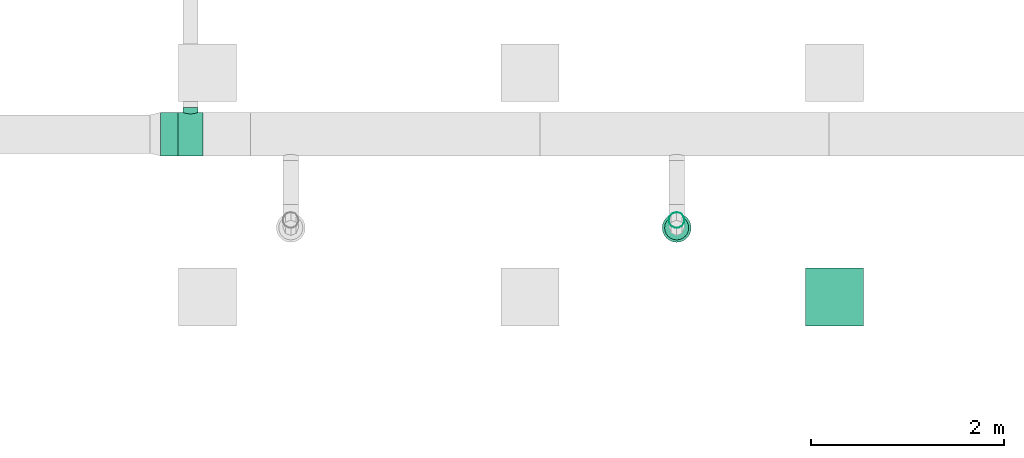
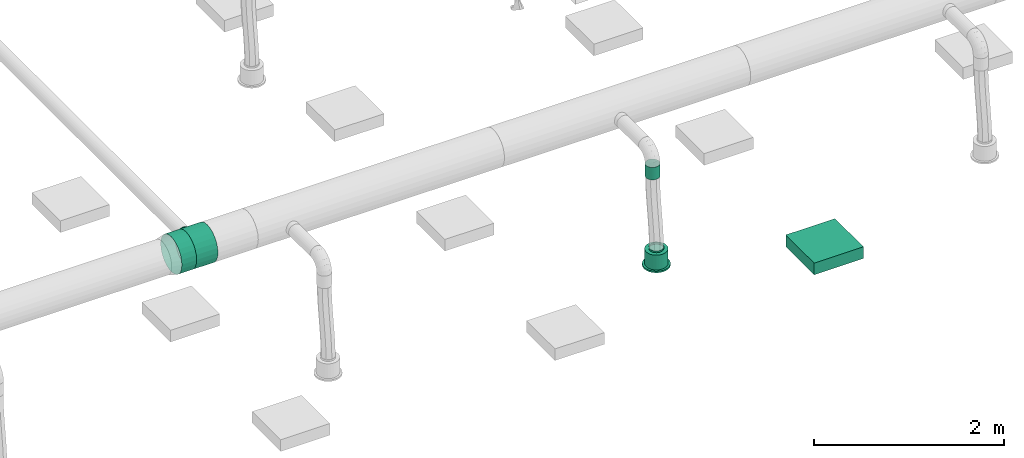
# One storey, part 67 of 374: 2 flow segments, 1 distribution element, 1 flow fitting, 1 flow terminal.
"""IFC2X3 building model written with IfcOpenShell, lengths in metres."""

from ifc_helpers import new_model, si_unit, direction, frame, frame_2d, origin, place, context, subcontext, project, spatial, rectangle, extrude, open_shell, surface_model, source, transform, mapped, element, save


model = new_model("IFC2X3")

# Units and contexts
model_context = context("Model", 3, precision=1e-05, world=origin(), true_north=direction((-0.4480736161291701, 0.8939966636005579)))
body_context = subcontext(model_context, "Body", "Model", "MODEL_VIEW")
ifc_project = project(units=[si_unit("LENGTHUNIT", "METRE"), si_unit("AREAUNIT", "SQUARE_METRE"), si_unit("VOLUMEUNIT", "CUBIC_METRE"), si_unit("PLANEANGLEUNIT", "RADIAN"), si_unit("THERMODYNAMICTEMPERATUREUNIT", "KELVIN"), si_unit("MASSUNIT", "GRAM", prefix="KILO"), si_unit("TIMEUNIT", "SECOND")], contexts=[model_context])

# Site, building, storey
site_placement = place(None, origin())
site = spatial("IfcSite", under=ifc_project, at=site_placement, Name="Site 1", CompositionType="ELEMENT")
building_placement = place(site_placement, origin())
building = spatial("IfcBuilding", under=site, at=building_placement, Name="Undefined", CompositionType="ELEMENT")
storey_placement = place(building_placement, origin())
storey = spatial("IfcBuildingStorey", under=building, at=storey_placement, Name="Rez de chauss\x8ee", CompositionType="ELEMENT", Elevation=0.0)

# Flow terminal
shared_shape_1 = source(origin(), body_context, "Body", "SurfaceModel", [
    surface_model("IfcFaceBasedSurfaceModel", [(0.0, 0.0, 0.0), (0.03915785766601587, 0.0, 0.0), (0.03915785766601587, 0.020000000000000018, 0.0), (3.552713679e-15, 0.020000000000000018, 0.0), (0.07698144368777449, 0.0, -0.010134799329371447), (0.07698144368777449, 0.020000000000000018, -0.010134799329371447), (0.11089314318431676, 0.0, -0.02971372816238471), (0.11089314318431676, 0.020000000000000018, -0.02971372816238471), (0.13858192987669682, 0.0, -0.05740251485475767), (0.13858192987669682, 0.020000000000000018, -0.05740251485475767), (0.15816085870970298, 0.0, -0.09131421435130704), (0.15816085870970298, 0.020000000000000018, -0.09131421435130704), (0.16829565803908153, 0.0, -0.12913780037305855), (0.16829565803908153, 0.020000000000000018, -0.12913780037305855), (0.16829565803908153, 0.0, -0.16829565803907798), (0.16829565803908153, 0.020000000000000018, -0.16829565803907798), (0.15816085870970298, 0.0, -0.20611924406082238), (0.15816085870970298, 0.020000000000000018, -0.20611924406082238), (0.13858192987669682, 0.0, -0.24003094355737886), (0.13858192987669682, 0.020000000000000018, -0.24003094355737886), (0.11089314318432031, 0.0, -0.2677197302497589), (0.11089314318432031, 0.020000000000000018, -0.2677197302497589), (0.07698144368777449, 0.0, -0.2872986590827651), (0.07698144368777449, 0.020000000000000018, -0.2872986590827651), (0.039157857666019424, 0.0, -0.29743345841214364), (0.039157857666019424, 0.020000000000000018, -0.29743345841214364), (3.552713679e-15, 0.0, -0.29743345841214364), (3.552713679e-15, 0.020000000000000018, -0.29743345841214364), (-0.03782358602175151, 0.0, -0.2872986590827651), (-0.03782358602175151, 0.020000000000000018, -0.2872986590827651), (-0.07173528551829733, 0.0, -0.2677197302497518), (-0.07173528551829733, 0.020000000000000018, -0.2677197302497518), (-0.0994240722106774, 0.0, -0.24003094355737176), (-0.0994240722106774, 0.020000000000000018, -0.24003094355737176), (-0.11900300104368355, 0.0, -0.2061192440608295), (-0.11900300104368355, 0.020000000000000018, -0.2061192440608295), (-0.1291378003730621, 0.0, -0.16829565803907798), (-0.1291378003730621, 0.020000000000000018, -0.16829565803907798), (-0.1291378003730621, 0.0, -0.12913780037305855), (-0.1291378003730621, 0.020000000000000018, -0.12913780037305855), (-0.11900300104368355, 0.0, -0.09131421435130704), (-0.11900300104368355, 0.020000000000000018, -0.09131421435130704), (-0.0994240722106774, 0.0, -0.05740251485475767), (-0.0994240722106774, 0.020000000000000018, -0.05740251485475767), (-0.07173528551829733, 0.0, -0.029713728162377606), (-0.07173528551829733, 0.020000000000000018, -0.029713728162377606), (-0.03782358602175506, 0.0, -0.010134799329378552), (-0.03782358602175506, 0.020000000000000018, -0.010134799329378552), (0.019578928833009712, 0.0, -0.14871672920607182), (0.019578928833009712, 0.020000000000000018, -0.14871672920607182), (0.003263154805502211, 0.020000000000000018, -0.02478612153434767), (0.035894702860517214, 0.020000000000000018, -0.02478612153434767), (0.035894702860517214, 0.20999999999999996, -0.02478612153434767), (0.003263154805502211, 0.20999999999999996, -0.02478612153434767), (0.06741435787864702, 0.020000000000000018, -0.033231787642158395), (0.06741435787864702, 0.20999999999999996, -0.033231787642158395), (0.0956741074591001, 0.020000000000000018, -0.04954756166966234), (0.0956741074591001, 0.20999999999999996, -0.04954756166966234), (0.11874809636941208, 0.020000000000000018, -0.07262155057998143), (0.11874809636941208, 0.20999999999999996, -0.07262155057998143), (0.13506387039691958, 0.020000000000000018, -0.10088130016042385), (0.13506387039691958, 0.20999999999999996, -0.10088130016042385), (0.1435095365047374, 0.020000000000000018, -0.13240095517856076), (0.1435095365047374, 0.20999999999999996, -0.13240095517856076), (0.1435095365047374, 0.020000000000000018, -0.16503250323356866), (0.1435095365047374, 0.20999999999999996, -0.16503250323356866), (0.13506387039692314, 0.020000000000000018, -0.19655215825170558), (0.13506387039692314, 0.20999999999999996, -0.19655215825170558), (0.11874809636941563, 0.020000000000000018, -0.2248119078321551), (0.11874809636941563, 0.20999999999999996, -0.2248119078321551), (0.09567410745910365, 0.020000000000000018, -0.24788589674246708), (0.09567410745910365, 0.20999999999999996, -0.24788589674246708), (0.06741435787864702, 0.020000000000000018, -0.26420167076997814), (0.06741435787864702, 0.20999999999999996, -0.26420167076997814), (0.035894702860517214, 0.020000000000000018, -0.27264733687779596), (0.035894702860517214, 0.20999999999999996, -0.27264733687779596), (0.0032631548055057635, 0.020000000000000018, -0.27264733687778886), (0.0032631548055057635, 0.20999999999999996, -0.27264733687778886), (-0.028256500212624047, 0.020000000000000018, -0.26420167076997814), (-0.028256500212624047, 0.20999999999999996, -0.26420167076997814), (-0.05651624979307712, 0.020000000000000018, -0.2478858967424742), (-0.05651624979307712, 0.20999999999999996, -0.2478858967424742), (-0.07959023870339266, 0.020000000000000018, -0.2248119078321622), (-0.07959023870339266, 0.20999999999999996, -0.2248119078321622), (-0.09590601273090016, 0.020000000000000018, -0.19655215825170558), (-0.09590601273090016, 0.20999999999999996, -0.19655215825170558), (-0.10435167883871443, 0.020000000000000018, -0.16503250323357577), (-0.10435167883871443, 0.20999999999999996, -0.16503250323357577), (-0.10435167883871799, 0.020000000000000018, -0.13240095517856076), (-0.10435167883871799, 0.20999999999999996, -0.13240095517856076), (-0.09590601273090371, 0.020000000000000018, -0.10088130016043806), (-0.09590601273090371, 0.20999999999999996, -0.10088130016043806), (-0.07959023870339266, 0.020000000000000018, -0.07262155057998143), (-0.07959023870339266, 0.20999999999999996, -0.07262155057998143), (-0.056516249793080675, 0.020000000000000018, -0.04954756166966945), (-0.056516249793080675, 0.20999999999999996, -0.04954756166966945), (-0.028256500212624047, 0.020000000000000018, -0.033231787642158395), (-0.028256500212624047, 0.20999999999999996, -0.033231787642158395), (0.019578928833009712, 0.20999999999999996, -0.14871672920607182), (0.009136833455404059, 0.20999999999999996, -0.06940114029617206), (0.030021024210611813, 0.20999999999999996, -0.06940114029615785), (0.030021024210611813, 0.22999999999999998, -0.06940114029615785), (0.009136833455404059, 0.22999999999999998, -0.06940114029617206), (0.05019360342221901, 0.20999999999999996, -0.07480636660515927), (0.05019360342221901, 0.22999999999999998, -0.07480636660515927), (0.06827984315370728, 0.20999999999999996, -0.08524846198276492), (0.06827984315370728, 0.22999999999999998, -0.08524846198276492), (0.0830471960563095, 0.20999999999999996, -0.10001581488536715), (0.0830471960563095, 0.22999999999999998, -0.10001581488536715), (0.0934892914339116, 0.20999999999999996, -0.11810205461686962), (0.0934892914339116, 0.22999999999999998, -0.11810205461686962), (0.09889451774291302, 0.20999999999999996, -0.13827463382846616), (0.09889451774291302, 0.22999999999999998, -0.13827463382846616), (0.09889451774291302, 0.20999999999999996, -0.15915882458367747), (0.09889451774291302, 0.22999999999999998, -0.15915882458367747), (0.09348929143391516, 0.20999999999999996, -0.179331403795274), (0.09348929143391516, 0.22999999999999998, -0.179331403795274), (0.0830471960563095, 0.20999999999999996, -0.19741764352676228), (0.0830471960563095, 0.22999999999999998, -0.19741764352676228), (0.06827984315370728, 0.20999999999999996, -0.2121849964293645), (0.06827984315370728, 0.22999999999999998, -0.2121849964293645), (0.05019360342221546, 0.20999999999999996, -0.22262709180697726), (0.05019360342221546, 0.22999999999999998, -0.22262709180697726), (0.030021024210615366, 0.20999999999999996, -0.22803231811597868), (0.030021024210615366, 0.22999999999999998, -0.22803231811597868), (0.009136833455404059, 0.20999999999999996, -0.22803231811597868), (0.009136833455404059, 0.22999999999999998, -0.22803231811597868), (-0.011035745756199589, 0.20999999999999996, -0.22262709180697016), (-0.011035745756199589, 0.22999999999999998, -0.22262709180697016), (-0.0291219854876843, 0.20999999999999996, -0.2121849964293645), (-0.0291219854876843, 0.22999999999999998, -0.2121849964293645), (-0.043889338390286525, 0.20999999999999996, -0.19741764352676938), (-0.043889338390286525, 0.22999999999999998, -0.19741764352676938), (-0.05433143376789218, 0.20999999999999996, -0.17933140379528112), (-0.05433143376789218, 0.22999999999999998, -0.17933140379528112), (-0.05973666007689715, 0.20999999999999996, -0.15915882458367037), (-0.05973666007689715, 0.22999999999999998, -0.15915882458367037), (-0.0597366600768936, 0.20999999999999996, -0.13827463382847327), (-0.0597366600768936, 0.22999999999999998, -0.13827463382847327), (-0.05433143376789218, 0.20999999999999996, -0.11810205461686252), (-0.05433143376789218, 0.22999999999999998, -0.11810205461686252), (-0.043889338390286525, 0.20999999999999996, -0.10001581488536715), (-0.043889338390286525, 0.22999999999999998, -0.10001581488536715), (-0.02912198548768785, 0.20999999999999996, -0.08524846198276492), (-0.02912198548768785, 0.22999999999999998, -0.08524846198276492), (-0.011035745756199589, 0.20999999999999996, -0.07480636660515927), (-0.011035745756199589, 0.22999999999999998, -0.07480636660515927)], [open_shell([[[0, 1, 2, 3]], [[1, 4, 5, 2]], [[4, 6, 7, 5]], [[6, 8, 9, 7]], [[8, 10, 11, 9]], [[10, 12, 13, 11]], [[12, 14, 15, 13]], [[14, 16, 17, 15]], [[16, 18, 19, 17]], [[18, 20, 21, 19]], [[20, 22, 23, 21]], [[22, 24, 25, 23]], [[24, 26, 27, 25]], [[26, 28, 29, 27]], [[28, 30, 31, 29]], [[30, 32, 33, 31]], [[32, 34, 35, 33]], [[34, 36, 37, 35]], [[36, 38, 39, 37]], [[38, 40, 41, 39]], [[40, 42, 43, 41]], [[42, 44, 45, 43]], [[44, 46, 47, 45]], [[46, 0, 3, 47]], [[48, 1, 0]], [[48, 4, 1]], [[48, 6, 4]], [[48, 8, 6]], [[48, 10, 8]], [[48, 12, 10]], [[48, 14, 12]], [[48, 16, 14]], [[48, 18, 16]], [[48, 20, 18]], [[48, 22, 20]], [[48, 24, 22]], [[48, 26, 24]], [[48, 28, 26]], [[48, 30, 28]], [[48, 32, 30]], [[48, 34, 32]], [[48, 36, 34]], [[48, 38, 36]], [[48, 40, 38]], [[48, 42, 40]], [[48, 44, 42]], [[48, 46, 44]], [[48, 0, 46]], [[49, 47, 3]], [[49, 45, 47]], [[49, 43, 45]], [[49, 41, 43]], [[49, 39, 41]], [[49, 37, 39]], [[49, 35, 37]], [[49, 33, 35]], [[49, 31, 33]], [[49, 29, 31]], [[49, 27, 29]], [[49, 25, 27]], [[49, 23, 25]], [[49, 21, 23]], [[49, 19, 21]], [[49, 17, 19]], [[49, 15, 17]], [[49, 13, 15]], [[49, 11, 13]], [[49, 9, 11]], [[49, 7, 9]], [[49, 5, 7]], [[49, 2, 5]], [[49, 3, 2]], [[50, 51, 52, 53]], [[51, 54, 55, 52]], [[54, 56, 57, 55]], [[56, 58, 59, 57]], [[58, 60, 61, 59]], [[60, 62, 63, 61]], [[62, 64, 65, 63]], [[64, 66, 67, 65]], [[66, 68, 69, 67]], [[68, 70, 71, 69]], [[70, 72, 73, 71]], [[72, 74, 75, 73]], [[74, 76, 77, 75]], [[76, 78, 79, 77]], [[78, 80, 81, 79]], [[80, 82, 83, 81]], [[82, 84, 85, 83]], [[84, 86, 87, 85]], [[86, 88, 89, 87]], [[88, 90, 91, 89]], [[90, 92, 93, 91]], [[92, 94, 95, 93]], [[94, 96, 97, 95]], [[96, 50, 53, 97]], [[49, 51, 50]], [[49, 54, 51]], [[49, 56, 54]], [[49, 58, 56]], [[49, 60, 58]], [[49, 62, 60]], [[49, 64, 62]], [[49, 66, 64]], [[49, 68, 66]], [[49, 70, 68]], [[49, 72, 70]], [[49, 74, 72]], [[49, 76, 74]], [[49, 78, 76]], [[49, 80, 78]], [[49, 82, 80]], [[49, 84, 82]], [[49, 86, 84]], [[49, 88, 86]], [[49, 90, 88]], [[49, 92, 90]], [[49, 94, 92]], [[49, 96, 94]], [[49, 50, 96]], [[98, 97, 53]], [[98, 95, 97]], [[98, 93, 95]], [[98, 91, 93]], [[98, 89, 91]], [[98, 87, 89]], [[98, 85, 87]], [[98, 83, 85]], [[98, 81, 83]], [[98, 79, 81]], [[98, 77, 79]], [[98, 75, 77]], [[98, 73, 75]], [[98, 71, 73]], [[98, 69, 71]], [[98, 67, 69]], [[98, 65, 67]], [[98, 63, 65]], [[98, 61, 63]], [[98, 59, 61]], [[98, 57, 59]], [[98, 55, 57]], [[98, 52, 55]], [[98, 53, 52]], [[99, 100, 101, 102]], [[100, 103, 104, 101]], [[103, 105, 106, 104]], [[105, 107, 108, 106]], [[107, 109, 110, 108]], [[109, 111, 112, 110]], [[111, 113, 114, 112]], [[113, 115, 116, 114]], [[115, 117, 118, 116]], [[117, 119, 120, 118]], [[119, 121, 122, 120]], [[121, 123, 124, 122]], [[123, 125, 126, 124]], [[125, 127, 128, 126]], [[127, 129, 130, 128]], [[129, 131, 132, 130]], [[131, 133, 134, 132]], [[133, 135, 136, 134]], [[135, 137, 138, 136]], [[137, 139, 140, 138]], [[139, 141, 142, 140]], [[141, 143, 144, 142]], [[143, 145, 146, 144]], [[145, 99, 102, 146]]])]),
])
flow_terminal_placement = place(storey_placement, origin())
element("IfcFlowTerminal", 1, at=flow_terminal_placement, inside=storey, Name="Air diffuseur - bouche", ObjectType="Air diffuseur - bouche", context=body_context, shape_type="MappedRepresentation", body=[
    mapped(shared_shape_1, transform((50.29000129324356, 2.0299997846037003, 2.38), x_axis=(-0.9914448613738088, -0.13052619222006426, 0.0), y_axis=(0.0, 0.0, 1.0), z_axis=(-0.13052619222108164, 0.9914448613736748, 0.0))),
])

# Flow fitting
shared_shape_2 = source(origin(), body_context, "Body", "SurfaceModel", [
    surface_model("IfcFaceBasedSurfaceModel", [(0.0, 0.05873678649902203, -2.77555756e-16), (0.0, 0.0, 0.0), (0.2599999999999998, -7.105427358e-15, 0.0), (0.26000000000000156, 0.05873678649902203, -2.77555756e-16), (0.0, -0.05673537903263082, -0.015202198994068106), (0.26000000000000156, -0.05673537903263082, -0.015202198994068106), (0.0, -0.10760292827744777, -0.044570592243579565), (0.26000000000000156, -0.10760292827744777, -0.044570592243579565), (0.0, -0.14913610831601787, -0.08610377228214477), (0.26000000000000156, -0.14913610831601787, -0.08610377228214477), (0.0, -0.1785045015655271, -0.13697132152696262), (0.26000000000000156, -0.1785045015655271, -0.13697132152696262), (0.0, -0.19370670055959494, -0.1937067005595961), (0.26000000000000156, -0.19370670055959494, -0.1937067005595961), (0.0, -0.19370670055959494, -0.252443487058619), (0.26000000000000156, -0.19370670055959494, -0.252443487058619), (0.0, -0.1785045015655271, -0.30917886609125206), (0.26000000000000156, -0.1785045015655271, -0.30917886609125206), (0.0, -0.14913610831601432, -0.36004641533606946), (0.26000000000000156, -0.14913610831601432, -0.36004641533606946), (0.0, -0.10760292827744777, -0.40157959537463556), (0.26000000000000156, -0.10760292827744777, -0.40157959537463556), (0.0, -0.05673537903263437, -0.43094798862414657), (0.26000000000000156, -0.05673537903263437, -0.43094798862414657), (0.0, 0.0, -0.4461501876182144), (0.26000000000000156, 0.0, -0.4461501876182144), (0.0, 0.058736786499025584, -0.4461501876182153), (0.26000000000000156, 0.058736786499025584, -0.4461501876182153), (0.0, 0.1154721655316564, -0.430947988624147), (0.26000000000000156, 0.1154721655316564, -0.430947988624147), (0.0, 0.16633971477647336, -0.4015795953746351), (0.26000000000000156, 0.16633971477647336, -0.4015795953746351), (0.0, 0.20787289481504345, -0.3600464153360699), (0.26000000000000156, 0.20787289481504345, -0.3600464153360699), (0.0, 0.23724128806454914, -0.3091788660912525), (0.26000000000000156, 0.23724128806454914, -0.3091788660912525), (0.0, 0.25244348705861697, -0.25244348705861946), (0.26000000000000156, 0.25244348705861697, -0.25244348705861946), (0.0, 0.25244348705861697, -0.1937067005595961), (0.26000000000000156, 0.25244348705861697, -0.1937067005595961), (0.0, 0.2372412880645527, -0.13697132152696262), (0.26000000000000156, 0.2372412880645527, -0.13697132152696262), (0.0, 0.2078728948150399, -0.08610377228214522), (0.26000000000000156, 0.2078728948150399, -0.08610377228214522), (0.0, 0.16633971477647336, -0.044570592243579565), (0.26000000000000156, 0.16633971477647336, -0.044570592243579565), (0.0, 0.11547216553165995, -0.01520219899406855), (0.26000000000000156, 0.11547216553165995, -0.01520219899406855), (0.21000000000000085, 0.25244348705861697, -0.25244348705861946), (0.2072740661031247, 0.24879430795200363, -0.2728472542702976), (0.2072740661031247, 0.29931311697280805, -0.27949818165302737), (0.21000000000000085, 0.30201573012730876, -0.2589697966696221), (0.19928203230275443, 0.24366900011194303, -0.29163346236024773), (0.19928203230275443, 0.2967946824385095, -0.29862759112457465), (0.18656854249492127, 0.23789445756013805, -0.30758474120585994), (0.18656854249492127, 0.2946320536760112, -0.3150543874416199), (0.1700000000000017, 0.23256164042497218, -0.31970585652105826), (0.1700000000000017, 0.2929726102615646, -0.32765911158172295), (0.15070552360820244, 0.22878854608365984, -0.32727011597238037), (0.15070552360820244, 0.29192944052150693, -0.3355827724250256), (0.129999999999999, 0.22742458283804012, -0.32984000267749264), (0.129999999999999, 0.29157363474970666, -0.3382853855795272), (0.10929447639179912, 0.22878854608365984, -0.32727011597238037), (0.10929447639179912, 0.29192944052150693, -0.3355827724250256), (0.08999999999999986, 0.23256164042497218, -0.31970585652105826), (0.08999999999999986, 0.2929726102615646, -0.32765911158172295), (0.07343145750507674, 0.23789445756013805, -0.30758474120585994), (0.07343145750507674, 0.2946320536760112, -0.3150543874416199), (0.06071796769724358, 0.24366900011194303, -0.29163346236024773), (0.06071796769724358, 0.2967946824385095, -0.29862759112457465), (0.05272593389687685, 0.24879430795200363, -0.2728472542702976), (0.05272593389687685, 0.29931311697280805, -0.27949818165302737), (0.05000000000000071, 0.25244348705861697, -0.25244348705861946), (0.05000000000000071, 0.30201573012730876, -0.2589697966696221), (0.05272593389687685, 0.25419953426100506, -0.2317904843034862), (0.05272593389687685, 0.30471834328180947, -0.23844141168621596), (0.06071796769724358, 0.25411109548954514, -0.21231787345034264), (0.06071796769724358, 0.3072367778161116, -0.21931200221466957), (0.07343145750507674, 0.2526618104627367, -0.19541555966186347), (0.07343145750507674, 0.30939940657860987, -0.20288520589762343), (0.08999999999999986, 0.250647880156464, -0.18232722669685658), (0.08999999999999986, 0.31105884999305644, -0.19028048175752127), (0.10929447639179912, 0.24896112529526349, -0.1740441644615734), (0.10929447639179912, 0.3121020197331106, -0.18235682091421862), (0.129999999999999, 0.24830877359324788, -0.17120882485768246), (0.129999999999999, 0.3124578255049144, -0.17965420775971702), (0.15070552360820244, 0.24896112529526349, -0.1740441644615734), (0.15070552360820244, 0.3121020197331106, -0.18235682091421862), (0.1700000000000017, 0.250647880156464, -0.18232722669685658), (0.1700000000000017, 0.31105884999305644, -0.19028048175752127), (0.18656854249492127, 0.2526618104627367, -0.19541555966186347), (0.18656854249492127, 0.30939940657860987, -0.20288520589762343), (0.19928203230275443, 0.25411109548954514, -0.21231787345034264), (0.19928203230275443, 0.3072367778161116, -0.21931200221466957), (0.2072740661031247, 0.25419953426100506, -0.2317904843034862), (0.2072740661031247, 0.30471834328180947, -0.23844141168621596)], [open_shell([[[0, 1, 2, 3]], [[1, 4, 5, 2]], [[4, 6, 7, 5]], [[6, 8, 9, 7]], [[8, 10, 11, 9]], [[10, 12, 13, 11]], [[12, 14, 15, 13]], [[14, 16, 17, 15]], [[16, 18, 19, 17]], [[18, 20, 21, 19]], [[20, 22, 23, 21]], [[22, 24, 25, 23]], [[24, 26, 27, 25]], [[26, 28, 29, 27]], [[28, 30, 31, 29]], [[30, 32, 33, 31]], [[32, 34, 35, 33]], [[34, 36, 37, 35]], [[36, 38, 39, 37]], [[38, 40, 41, 39]], [[40, 42, 43, 41]], [[42, 44, 45, 43]], [[44, 46, 47, 45]], [[46, 0, 3, 47]], [[48, 49, 50, 51]], [[49, 52, 53, 50]], [[52, 54, 55, 53]], [[54, 56, 57, 55]], [[56, 58, 59, 57]], [[58, 60, 61, 59]], [[60, 62, 63, 61]], [[62, 64, 65, 63]], [[64, 66, 67, 65]], [[66, 68, 69, 67]], [[68, 70, 71, 69]], [[70, 72, 73, 71]], [[72, 74, 75, 73]], [[74, 76, 77, 75]], [[76, 78, 79, 77]], [[78, 80, 81, 79]], [[80, 82, 83, 81]], [[82, 84, 85, 83]], [[84, 86, 87, 85]], [[86, 88, 89, 87]], [[88, 90, 91, 89]], [[90, 92, 93, 91]], [[92, 94, 95, 93]], [[94, 48, 51, 95]]])]),
])
flow_fitting_placement = place(storey_placement, origin())
element("IfcFlowFitting", 2, at=flow_fitting_placement, inside=storey, Name="Pièce en té 90°", ObjectType="Pièce en té 90°", context=body_context, shape_type="MappedRepresentation", body=[
    mapped(shared_shape_2, transform((45.3802001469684, 2.79306343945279, 3.5826666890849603), x_axis=(-1.0, 0.0, 0.0), y_axis=(0.0, 0.9914448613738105, -0.13052619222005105), z_axis=(9.56658874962e-13, -0.13052619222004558, -0.9914448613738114))),
])

# Flow segments
shared_shape_3 = source(origin(), body_context, "Body", "SurfaceModel", [
    surface_model("IfcFaceBasedSurfaceModel", [(0.0, 0.05873678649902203, -2.77555756e-16), (0.0, 0.0, 0.0), (0.17999999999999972, 0.0, 4.4408921e-16), (0.17999999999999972, 0.05873678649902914, 8.8817842e-16), (0.0, -0.05673537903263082, -0.015202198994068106), (0.17999999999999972, -0.05673537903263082, -0.015202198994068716), (0.0, -0.10760292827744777, -0.044570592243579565), (0.17999999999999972, -0.10760292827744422, -0.04457059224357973), (0.0, -0.14913610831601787, -0.08610377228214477), (0.17999999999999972, -0.14913610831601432, -0.08610377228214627), (0.0, -0.1785045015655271, -0.13697132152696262), (0.17999999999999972, -0.17850450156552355, -0.13697132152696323), (0.0, -0.19370670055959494, -0.1937067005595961), (0.17999999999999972, -0.19370670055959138, -0.1937067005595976), (0.0, -0.19370670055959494, -0.252443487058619), (0.17999999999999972, -0.19370670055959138, -0.25244348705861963), (0.0, -0.1785045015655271, -0.30917886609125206), (0.17999999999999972, -0.1785045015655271, -0.309178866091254), (0.0, -0.14913610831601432, -0.36004641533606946), (0.17999999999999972, -0.1491361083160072, -0.36004641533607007), (0.0, -0.10760292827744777, -0.40157959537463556), (0.17999999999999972, -0.10760292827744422, -0.4015795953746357), (0.0, -0.05673537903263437, -0.43094798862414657), (0.17999999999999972, -0.05673537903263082, -0.43094798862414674), (0.0, 0.0, -0.4461501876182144), (0.17999999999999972, 1.0658141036e-14, -0.44615018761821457), (0.0, 0.058736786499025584, -0.4461501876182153), (0.17999999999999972, 0.05873678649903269, -0.44615018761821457), (0.0, 0.1154721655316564, -0.430947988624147), (0.17999999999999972, 0.1154721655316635, -0.43094798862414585), (0.0, 0.16633971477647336, -0.4015795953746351), (0.17999999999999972, 0.16633971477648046, -0.40157959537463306), (0.0, 0.20787289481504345, -0.3600464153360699), (0.17999999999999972, 0.207872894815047, -0.3600464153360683), (0.0, 0.23724128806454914, -0.3091788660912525), (0.17999999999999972, 0.23724128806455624, -0.30917886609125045), (0.0, 0.25244348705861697, -0.25244348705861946), (0.17999999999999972, 0.25244348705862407, -0.25244348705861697), (0.0, 0.25244348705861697, -0.1937067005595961), (0.17999999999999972, 0.25244348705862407, -0.19370670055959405), (0.0, 0.2372412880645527, -0.13697132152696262), (0.17999999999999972, 0.2372412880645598, -0.13697132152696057), (0.0, 0.2078728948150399, -0.08610377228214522), (0.17999999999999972, 0.20787289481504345, -0.08610377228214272), (0.0, 0.16633971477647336, -0.044570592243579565), (0.17999999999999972, 0.1663397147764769, -0.044570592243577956), (0.0, 0.11547216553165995, -0.01520219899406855), (0.17999999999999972, 0.1154721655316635, -0.01520219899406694)], [open_shell([[[0, 1, 2, 3]], [[1, 4, 5, 2]], [[4, 6, 7, 5]], [[6, 8, 9, 7]], [[8, 10, 11, 9]], [[10, 12, 13, 11]], [[12, 14, 15, 13]], [[14, 16, 17, 15]], [[16, 18, 19, 17]], [[18, 20, 21, 19]], [[20, 22, 23, 21]], [[22, 24, 25, 23]], [[24, 26, 27, 25]], [[26, 28, 29, 27]], [[28, 30, 31, 29]], [[30, 32, 33, 31]], [[32, 34, 35, 33]], [[34, 36, 37, 35]], [[36, 38, 39, 37]], [[38, 40, 41, 39]], [[40, 42, 43, 41]], [[42, 44, 45, 43]], [[44, 46, 47, 45]], [[46, 0, 3, 47]]])]),
])
flow_segment_1_placement = place(storey_placement, origin())
element("IfcFlowSegment", 3, at=flow_segment_1_placement, inside=storey, Name="Manchon", ObjectType="Manchon", context=body_context, shape_type="MappedRepresentation", body=[
    mapped(shared_shape_3, transform((45.1202001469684, 2.909532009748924, 4.017333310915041), x_axis=(-1.0, 0.0, 0.0), y_axis=(7.266545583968e-12, -0.9914448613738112, 0.13052619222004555), z_axis=(0.0, 0.13052619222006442, 0.9914448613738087))),
])
shared_shape_4 = source(origin(), body_context, "Body", "SurfaceModel", [
    surface_model("IfcFaceBasedSurfaceModel", [(0.0, 0.020884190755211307, 0.0), (0.0, 0.0, 0.0), (0.16000000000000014, 0.0, -4.4408921e-16), (0.16000000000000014, 0.0208841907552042, -4.4408921e-16), (0.0, -0.020172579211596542, -0.005405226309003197), (0.16000000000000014, -0.020172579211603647, -0.005405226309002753), (0.0, -0.03825881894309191, -0.015847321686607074), (0.16000000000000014, -0.03825881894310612, -0.015847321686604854), (0.0, -0.05302617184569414, -0.0306146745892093), (0.16000000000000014, -0.05302617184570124, -0.03061467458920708), (0.0, -0.06346826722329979, -0.04870091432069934), (0.16000000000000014, -0.0634682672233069, -0.04870091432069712), (0.0, -0.06887349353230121, -0.06887349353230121), (0.16000000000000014, -0.06887349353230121, -0.06887349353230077), (0.0, -0.06887349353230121, -0.08975768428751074), (0.16000000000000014, -0.06887349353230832, -0.08975768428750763), (0.0, -0.06346826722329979, -0.10993026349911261), (0.16000000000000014, -0.0634682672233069, -0.10993026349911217), (0.0, -0.05302617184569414, -0.12801650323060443), (0.16000000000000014, -0.05302617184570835, -0.1280165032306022), (0.0, -0.038258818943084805, -0.14278385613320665), (0.16000000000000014, -0.03825881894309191, -0.14278385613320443), (0.0, -0.020172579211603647, -0.15322595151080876), (0.16000000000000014, -0.020172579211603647, -0.1532259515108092), (0.0, 7.105427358e-15, -0.15863117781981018), (0.16000000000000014, -7.105427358e-15, -0.15863117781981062), (0.0, 0.020884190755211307, -0.15863117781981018), (0.16000000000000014, 0.0208841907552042, -0.15863117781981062), (0.0, 0.04105676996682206, -0.15322595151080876), (0.16000000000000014, 0.04105676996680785, -0.1532259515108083), (0.0, 0.05914300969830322, -0.1427838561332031), (0.16000000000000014, 0.05914300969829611, -0.14278385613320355), (0.0, 0.07391036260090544, -0.12801650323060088), (0.16000000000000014, 0.07391036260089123, -0.1280165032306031), (0.0, 0.0843524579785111, -0.10993026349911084), (0.16000000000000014, 0.08435245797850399, -0.10993026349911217), (0.0, 0.08975768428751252, -0.08975768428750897), (0.16000000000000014, 0.08975768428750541, -0.08975768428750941), (0.0, 0.08975768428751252, -0.06887349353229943), (0.16000000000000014, 0.08975768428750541, -0.06887349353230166), (0.0, 0.0843524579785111, -0.048700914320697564), (0.16000000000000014, 0.08435245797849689, -0.04870091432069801), (0.0, 0.07391036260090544, -0.030614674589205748), (0.16000000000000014, 0.07391036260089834, -0.03061467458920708), (0.0, 0.05914300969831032, -0.015847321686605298), (0.16000000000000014, 0.05914300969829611, -0.01584732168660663), (0.0, 0.04105676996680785, -0.005405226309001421), (0.16000000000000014, 0.04105676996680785, -0.005405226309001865)], [open_shell([[[0, 1, 2, 3]], [[1, 4, 5, 2]], [[4, 6, 7, 5]], [[6, 8, 9, 7]], [[8, 10, 11, 9]], [[10, 12, 13, 11]], [[12, 14, 15, 13]], [[14, 16, 17, 15]], [[16, 18, 19, 17]], [[18, 20, 21, 19]], [[20, 22, 23, 21]], [[22, 24, 25, 23]], [[24, 26, 27, 25]], [[26, 28, 29, 27]], [[28, 30, 31, 29]], [[30, 32, 33, 31]], [[32, 34, 35, 33]], [[34, 36, 37, 35]], [[36, 38, 39, 37]], [[38, 40, 41, 39]], [[40, 42, 43, 41]], [[42, 44, 45, 43]], [[44, 46, 47, 45]], [[46, 0, 3, 47]]])]),
])
flow_segment_2_placement = place(storey_placement, origin())
element("IfcFlowSegment", 4, at=flow_segment_2_placement, inside=storey, Name="Tube", ObjectType="Tube", context=body_context, shape_type="MappedRepresentation", body=[
    mapped(shared_shape_4, transform((50.26929576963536, 2.0372738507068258, 3.4800000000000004), x_axis=(0.0, 0.0, 1.0), y_axis=(0.9914448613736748, 0.13052619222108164, 0.0), z_axis=(-0.13052619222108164, 0.9914448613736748, 0.0))),
])

# Distribution element
distribution_element_placement = place(storey_placement, origin())
element("IfcDistributionElement", 5, at=distribution_element_placement, inside=storey, Name="Decken-Rechteckleuchte mit Rahmen AP", ObjectType="Decken-Rechteckleuchte mit Rahmen AP", context=body_context, shape_type="SweptSolid", body=[
    extrude(rectangle(XDim=0.6000000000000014, YDim=0.6000000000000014, at=frame_2d((3.552713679e-15, 0.0), x_axis=(0.0, 1.0))), frame((51.9257634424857, 1.1625, 2.5500000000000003), z_axis=(0.0, 0.0, -1.0), x_axis=(1.0, 0.0, 0.0)), (0.0, 0.0, 1.0), 0.15),
])

save(model, "model.ifc")
